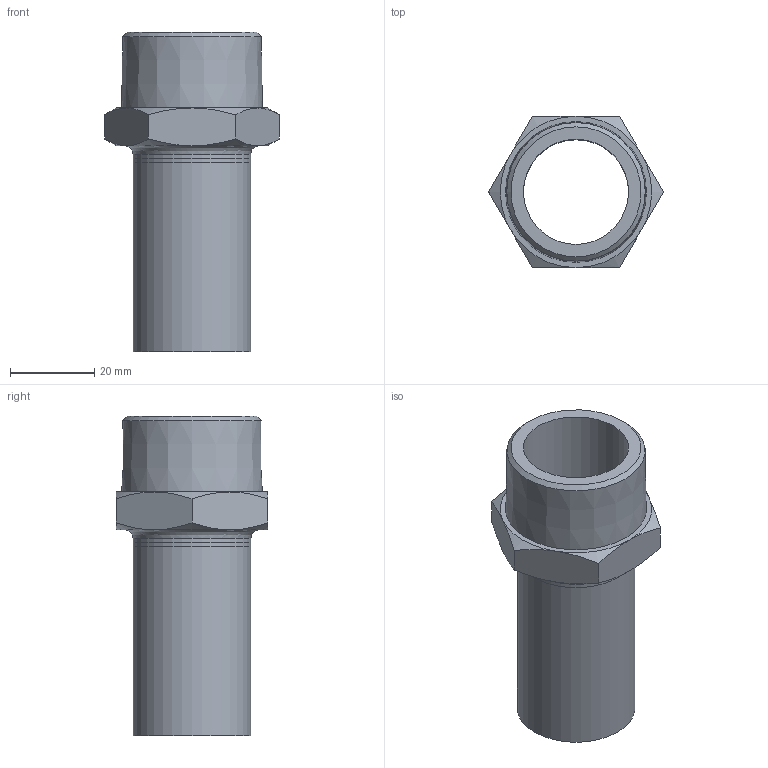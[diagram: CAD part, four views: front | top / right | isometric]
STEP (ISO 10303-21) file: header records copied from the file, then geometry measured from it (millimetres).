
FILE_DESCRIPTION((''),'2;1');
FILE_NAME('G:\Nirosan-Schmiedefeld\Technics\CAD\001 Serie 9.000\028\69280G281H(2).stp','2017-06-28T09:22:10',('herberg'),(''),'Autodesk Inventor 2009','Autodesk Inventor 2009','');
FILE_SCHEMA(('AUTOMOTIVE_DESIGN { 1 0 10303 214 1 1 1 1 }'));
Length unit declared in the file: millimetre
Products named in the file (3): 69280G281H(2); 69FXE28P(0); AG281(1)
Assembly tree (2 placements, depth 2):
  69280G281H(2)
    69FXE28P(0)
    AG281(1)
Bounding box: 41.57 x 36 x 76 mm (x, y, z)
Volume: 18607 mm3; surface area: 14689.2 mm2
Topology: 2 solids, 2 shells, 31 faces, 62 edges, 37 vertices
Faces by surface type: cone 14, plane 12, cylinder 3, bspline 2
Full cylindrical faces by diameter (mm): 25 x1, 28 x2
Entity records: 878 total; most frequent: CARTESIAN_POINT 235, DIRECTION 122, ORIENTED_EDGE 108, AXIS2_PLACEMENT_3D 58, EDGE_CURVE 54, EDGE_LOOP 44, VERTEX_POINT 36, FACE_OUTER_BOUND 31
